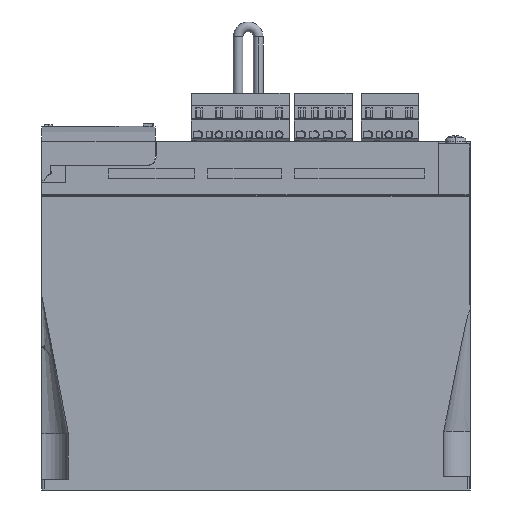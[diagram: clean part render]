
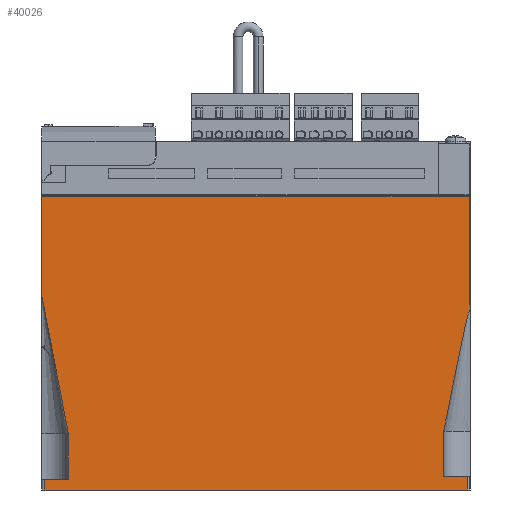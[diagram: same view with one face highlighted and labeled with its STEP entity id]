
A CAD part, left-side view. The second image highlights one B-rep face of the part: STEP entity #40026.
In plain terms, the highlighted planar face has unit normal (-1, 0, 0).
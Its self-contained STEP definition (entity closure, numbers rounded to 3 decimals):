
#23736 = DIRECTION ( 'NONE',  ( 0., -0.189, -0.982 ) ) ;
#23737 = VECTOR ( 'NONE', #23736, 1000. ) ;
#23738 = CARTESIAN_POINT ( 'NONE',  ( 9., 5.5, 122.9 ) ) ;
#23739 = LINE ( 'NONE', #23738, #23737 ) ;
#23742 = CARTESIAN_POINT ( 'NONE',  ( 9., -4.5, 70.9 ) ) ;
#23747 = CARTESIAN_POINT ( 'NONE',  ( 9., 5.5, 159.4 ) ) ;
#23760 = DIRECTION ( 'NONE',  ( 0., 1., 0. ) ) ;
#23761 = VECTOR ( 'NONE', #23760, 1000. ) ;
#23762 = CARTESIAN_POINT ( 'NONE',  ( 9., -156.66, 118.95 ) ) ;
#23763 = LINE ( 'NONE', #23762, #23761 ) ;
#23773 = CARTESIAN_POINT ( 'NONE',  ( 9., -154., 118.95 ) ) ;
#23818 = CARTESIAN_POINT ( 'NONE',  ( 9., 5.5, 122.9 ) ) ;
#23822 = CARTESIAN_POINT ( 'NONE',  ( 9., -4.5, 53.9 ) ) ;
#23857 = DIRECTION ( 'NONE',  ( 0., 1., 0. ) ) ;
#23858 = VECTOR ( 'NONE', #23857, 1000. ) ;
#23859 = CARTESIAN_POINT ( 'NONE',  ( 9., -156.66, 159.4 ) ) ;
#23860 = LINE ( 'NONE', #23859, #23858 ) ;
#24112 = CARTESIAN_POINT ( 'NONE',  ( 9., -153.5, 49.9 ) ) ;
#24160 = CARTESIAN_POINT ( 'NONE',  ( 9., 4.5, 49.9 ) ) ;
#24161 = DIRECTION ( 'NONE',  ( 0., -1., 0. ) ) ;
#24162 = VECTOR ( 'NONE', #24161, 1000. ) ;
#24163 = CARTESIAN_POINT ( 'NONE',  ( 9., -156.66, 49.9 ) ) ;
#24164 = LINE ( 'NONE', #24163, #24162 ) ;
#24198 = DIRECTION ( 'NONE',  ( 0., 0., -1. ) ) ;
#24199 = VECTOR ( 'NONE', #24198, 1000. ) ;
#24200 = CARTESIAN_POINT ( 'NONE',  ( 9., 5.5, 159.898 ) ) ;
#24201 = LINE ( 'NONE', #24200, #24199 ) ;
#24277 = CARTESIAN_POINT ( 'NONE',  ( 9., -153.5, 54.9 ) ) ;
#24278 = DIRECTION ( 'NONE',  ( 0., 1., 0. ) ) ;
#24279 = VECTOR ( 'NONE', #24278, 1000. ) ;
#24280 = CARTESIAN_POINT ( 'NONE',  ( 9., -156.66, 54.9 ) ) ;
#24281 = LINE ( 'NONE', #24280, #24279 ) ;
#24282 = CARTESIAN_POINT ( 'NONE',  ( 9., -144.55, 54.9 ) ) ;
#24311 = CARTESIAN_POINT ( 'NONE',  ( 9., -154., 159.4 ) ) ;
#24312 = DIRECTION ( 'NONE',  ( 0., 0., 1. ) ) ;
#24313 = VECTOR ( 'NONE', #24312, 1000. ) ;
#24314 = CARTESIAN_POINT ( 'NONE',  ( 9., -154., 159.898 ) ) ;
#24315 = LINE ( 'NONE', #24314, #24313 ) ;
#24508 = DIRECTION ( 'NONE',  ( 0., 0., 1. ) ) ;
#24509 = VECTOR ( 'NONE', #24508, 1000. ) ;
#24510 = CARTESIAN_POINT ( 'NONE',  ( 9., -154.5, 159.898 ) ) ;
#24511 = LINE ( 'NONE', #24510, #24509 ) ;
#24521 = CARTESIAN_POINT ( 'NONE',  ( 9., -154.5, 118.95 ) ) ;
#24539 = DIRECTION ( 'NONE',  ( 0., 0., 1. ) ) ;
#24540 = VECTOR ( 'NONE', #24539, 1000. ) ;
#24541 = CARTESIAN_POINT ( 'NONE',  ( 9., -153.5, 54.9 ) ) ;
#24542 = LINE ( 'NONE', #24541, #24540 ) ;
#24552 = DIRECTION ( 'NONE',  ( 0., 0., -1. ) ) ;
#24553 = VECTOR ( 'NONE', #24552, 1000. ) ;
#24554 = CARTESIAN_POINT ( 'NONE',  ( 9., 4.5, 159.898 ) ) ;
#24555 = LINE ( 'NONE', #24554, #24553 ) ;
#24593 = CARTESIAN_POINT ( 'NONE',  ( 9., -156.66, 159.898 ) ) ;
#24594 = AXIS2_PLACEMENT_3D ( 'NONE', #24593, #24658, #24657 ) ;
#24595 = PLANE ( 'NONE',  #24594 ) ;
#24596 = FACE_OUTER_BOUND ( 'NONE', #40027, .T. ) ;
#24601 = DIRECTION ( 'NONE',  ( 0., 1., 0. ) ) ;
#24602 = VECTOR ( 'NONE', #24601, 1000. ) ;
#24603 = CARTESIAN_POINT ( 'NONE',  ( 9., -156.66, 53.9 ) ) ;
#24604 = LINE ( 'NONE', #24603, #24602 ) ;
#24612 = CARTESIAN_POINT ( 'NONE',  ( 9., 4.5, 53.9 ) ) ;
#24636 = DIRECTION ( 'NONE',  ( 0., 0., -1. ) ) ;
#24637 = VECTOR ( 'NONE', #24636, 1000. ) ;
#24638 = CARTESIAN_POINT ( 'NONE',  ( 9., -4.5, 159.898 ) ) ;
#24639 = LINE ( 'NONE', #24638, #24637 ) ;
#24657 = DIRECTION ( 'NONE',  ( 0., 0., 1. ) ) ;
#24658 = DIRECTION ( 'NONE',  ( -1., 0., 0. ) ) ;
#25145 = CARTESIAN_POINT ( 'NONE',  ( 9., -154.5, 116.9 ) ) ;
#25146 = CARTESIAN_POINT ( 'NONE',  ( 9., -154.439, 116.9 ) ) ;
#25147 = CARTESIAN_POINT ( 'NONE',  ( 9., -154.382, 116.871 ) ) ;
#25148 = CARTESIAN_POINT ( 'NONE',  ( 9., -154.289, 116.795 ) ) ;
#25149 = CARTESIAN_POINT ( 'NONE',  ( 9., -154.249, 116.748 ) ) ;
#25150 = CARTESIAN_POINT ( 'NONE',  ( 9., -154.144, 116.603 ) ) ;
#25152 = CARTESIAN_POINT ( 'NONE',  ( 9., -154.087, 116.496 ) ) ;
#25153 = CARTESIAN_POINT ( 'NONE',  ( 9., -153.932, 116.169 ) ) ;
#25154 = CARTESIAN_POINT ( 'NONE',  ( 9., -153.849, 115.943 ) ) ;
#25155 = CARTESIAN_POINT ( 'NONE',  ( 9., -153.617, 115.259 ) ) ;
#25156 = CARTESIAN_POINT ( 'NONE',  ( 9., -153.487, 114.795 ) ) ;
#25157 = CARTESIAN_POINT ( 'NONE',  ( 9., -153.115, 113.399 ) ) ;
#25158 = CARTESIAN_POINT ( 'NONE',  ( 9., -152.895, 112.461 ) ) ;
#25159 = CARTESIAN_POINT ( 'NONE',  ( 9., -152.253, 109.644 ) ) ;
#25161 = CARTESIAN_POINT ( 'NONE',  ( 9., -151.852, 107.76 ) ) ;
#25163 = CARTESIAN_POINT ( 'NONE',  ( 9., -150.662, 102.106 ) ) ;
#25165 = CARTESIAN_POINT ( 'NONE',  ( 9., -149.891, 98.331 ) ) ;
#25167 = CARTESIAN_POINT ( 'NONE',  ( 9., -147.588, 87.007 ) ) ;
#25176 = CARTESIAN_POINT ( 'NONE',  ( 9., -146.068, 79.453 ) ) ;
#25177 = CARTESIAN_POINT ( 'NONE',  ( 9., -144.55, 71.9 ) ) ;
#25181 = CARTESIAN_POINT ( 'NONE',  ( 9., -154.5, 116.9 ) ) ;
#25183 = B_SPLINE_CURVE_WITH_KNOTS ( 'NONE', 3,
 ( #25177, #25176, #25167, #25165, #25163, #25161, #25159, #25158, #25157, #25156, #25155, #25154, #25153, #25152, #25150, #25149, #25148, #25147, #25146, #25145 ),
 .UNSPECIFIED., .F., .F.,
 ( 4, 2, 2, 2, 2, 2, 2, 2, 2, 4 ),
 ( 0., 0.023, 0.035, 0.04, 0.043, 0.045, 0.046, 0.046, 0.046, 0.046 ),
 .UNSPECIFIED. ) ;
#25239 = DIRECTION ( 'NONE',  ( 0., 0., 1. ) ) ;
#25240 = VECTOR ( 'NONE', #25239, 1000. ) ;
#25241 = CARTESIAN_POINT ( 'NONE',  ( 9., -144.55, 159.898 ) ) ;
#25242 = LINE ( 'NONE', #25241, #25240 ) ;
#25243 = CARTESIAN_POINT ( 'NONE',  ( 9., -144.55, 71.9 ) ) ;
#39609 = VERTEX_POINT ( 'NONE', #23742 ) ;
#39612 = EDGE_CURVE ( 'NONE', #39676, #39609, #23739, .T. ) ;
#39627 = VERTEX_POINT ( 'NONE', #23822 ) ;
#39642 = VERTEX_POINT ( 'NONE', #23773 ) ;
#39647 = EDGE_CURVE ( 'NONE', #40010, #39642, #23763, .T. ) ;
#39654 = VERTEX_POINT ( 'NONE', #23747 ) ;
#39660 = EDGE_CURVE ( 'NONE', #39892, #39654, #23860, .T. ) ;
#39676 = VERTEX_POINT ( 'NONE', #23818 ) ;
#39809 = VERTEX_POINT ( 'NONE', #24112 ) ;
#39838 = EDGE_CURVE ( 'NONE', #39840, #39809, #24164, .T. ) ;
#39840 = VERTEX_POINT ( 'NONE', #24160 ) ;
#39857 = VERTEX_POINT ( 'NONE', #24282 ) ;
#39859 = EDGE_CURVE ( 'NONE', #39861, #39857, #24281, .T. ) ;
#39861 = VERTEX_POINT ( 'NONE', #24277 ) ;
#39891 = EDGE_CURVE ( 'NONE', #39642, #39892, #24315, .T. ) ;
#39892 = VERTEX_POINT ( 'NONE', #24311 ) ;
#39914 = EDGE_CURVE ( 'NONE', #39654, #39676, #24201, .T. ) ;
#39976 = EDGE_CURVE ( 'NONE', #40018, #39840, #24555, .T. ) ;
#39978 = ORIENTED_EDGE ( 'NONE', *, *, #39838, .T. ) ;
#39981 = ORIENTED_EDGE ( 'NONE', *, *, #39982, .T. ) ;
#39982 = EDGE_CURVE ( 'NONE', #39809, #39861, #24542, .T. ) ;
#39985 = ORIENTED_EDGE ( 'NONE', *, *, #39859, .T. ) ;
#39987 = ORIENTED_EDGE ( 'NONE', *, *, #40198, .T. ) ;
#39989 = ORIENTED_EDGE ( 'NONE', *, *, #40211, .T. ) ;
#39992 = ORIENTED_EDGE ( 'NONE', *, *, #40014, .T. ) ;
#39994 = ORIENTED_EDGE ( 'NONE', *, *, #39647, .T. ) ;
#39997 = ORIENTED_EDGE ( 'NONE', *, *, #39891, .T. ) ;
#39999 = ORIENTED_EDGE ( 'NONE', *, *, #39660, .T. ) ;
#40010 = VERTEX_POINT ( 'NONE', #24521 ) ;
#40014 = EDGE_CURVE ( 'NONE', #40215, #40010, #24511, .T. ) ;
#40018 = VERTEX_POINT ( 'NONE', #24612 ) ;
#40022 = EDGE_CURVE ( 'NONE', #39627, #40018, #24604, .T. ) ;
#40026 = ADVANCED_FACE ( 'NONE', ( #24596 ), #24595, .T. ) ;
#40027 = EDGE_LOOP ( 'NONE', ( #40029, #40031, #39978, #39981, #39985, #39987, #39989, #39992, #39994, #39997, #39999, #40037, #40040, #40042 ) ) ;
#40029 = ORIENTED_EDGE ( 'NONE', *, *, #40022, .T. ) ;
#40031 = ORIENTED_EDGE ( 'NONE', *, *, #39976, .T. ) ;
#40034 = EDGE_CURVE ( 'NONE', #39609, #39627, #24639, .T. ) ;
#40037 = ORIENTED_EDGE ( 'NONE', *, *, #39914, .T. ) ;
#40040 = ORIENTED_EDGE ( 'NONE', *, *, #39612, .T. ) ;
#40042 = ORIENTED_EDGE ( 'NONE', *, *, #40034, .T. ) ;
#40195 = VERTEX_POINT ( 'NONE', #25243 ) ;
#40198 = EDGE_CURVE ( 'NONE', #39857, #40195, #25242, .T. ) ;
#40211 = EDGE_CURVE ( 'NONE', #40195, #40215, #25183, .T. ) ;
#40215 = VERTEX_POINT ( 'NONE', #25181 ) ;
